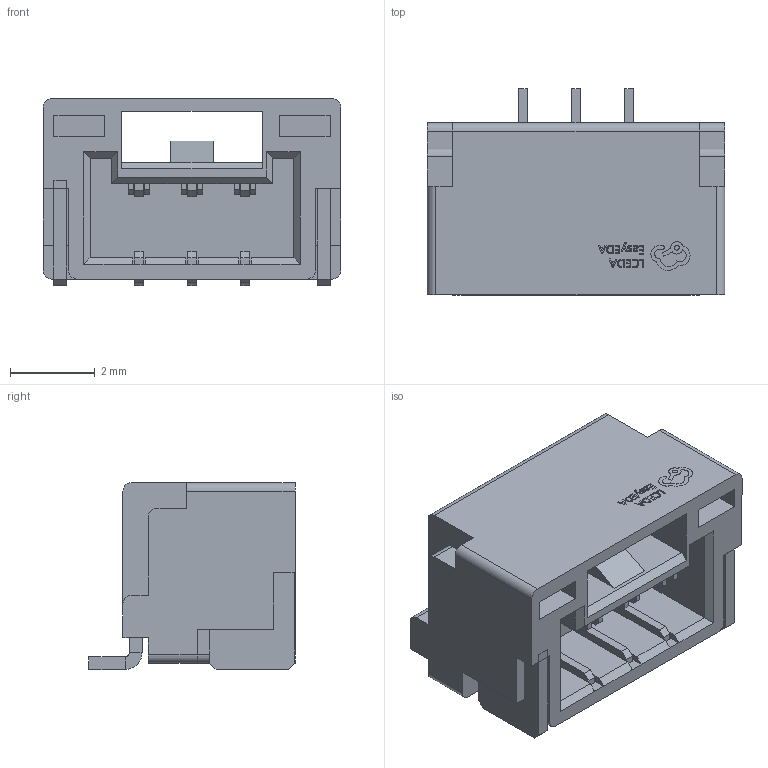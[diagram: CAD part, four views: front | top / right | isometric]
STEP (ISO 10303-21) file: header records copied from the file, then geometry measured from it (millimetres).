
FILE_DESCRIPTION (( 'STEP AP214' ), '1' );
FILE_NAME ('CONN-TH_SM03B-GHS-TB-LF-SN.step', '2022-08-03T09:27:30', ( '' ), ( '' ), 'SwSTEP 2.0', 'SolidWorks 2020', '' );
FILE_SCHEMA (( 'AUTOMOTIVE_DESIGN' ));
Length unit declared in the file: millimetre
Products named in the file (1): CONN-TH_SM03B-GHS-TB-LF-SN
Bounding box: 7 x 4.85 x 4.4 mm (x, y, z)
Volume: 78.9 mm3; surface area: 264.2 mm2
Topology: 15 solids, 15 shells, 544 faces, 1420 edges, 920 vertices
Faces by surface type: plane 409, bspline 112, cylinder 23
Entity records: 21840 total; most frequent: CARTESIAN_POINT 4989, ORIENTED_EDGE 2840, DIRECTION 2104, EDGE_CURVE 1420, VECTOR 1146, LINE 1146, VERTEX_POINT 920, EDGE_LOOP 572
